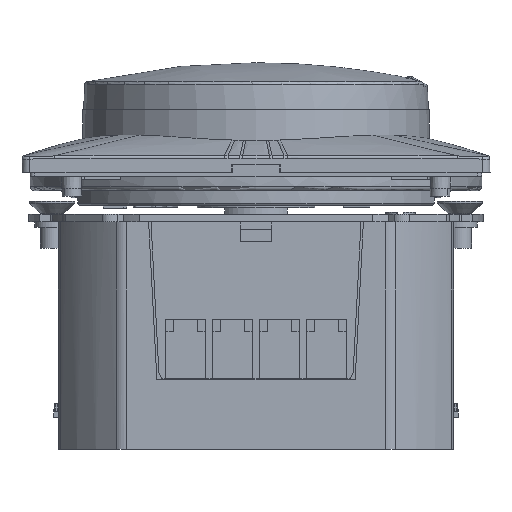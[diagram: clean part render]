
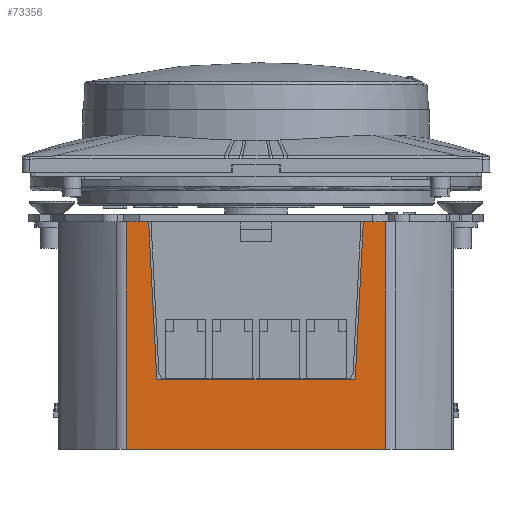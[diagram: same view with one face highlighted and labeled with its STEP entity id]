
A CAD part, front view. The second image highlights one B-rep face of the part: STEP entity #73356.
In plain terms, the highlighted planar face has unit normal (0, -1, 0) as drawn and (0, 0, 1) by its records, which use the part's own axes.
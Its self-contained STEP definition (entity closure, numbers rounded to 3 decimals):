
#54666=DIRECTION('',(0.,-1.,0.));
#54667=VECTOR('',#54666,29.);
#54668=CARTESIAN_POINT('',(-16.565,-2.7,23.7));
#54669=LINE('',#54668,#54667);
#56961=DIRECTION('',(0.052,-0.999,0.));
#56962=VECTOR('',#56961,20.178);
#56963=CARTESIAN_POINT('',(-13.7,-2.7,23.7));
#56964=LINE('',#56963,#56962);
#56965=DIRECTION('',(0.052,0.999,0.));
#56966=VECTOR('',#56965,20.178);
#56967=CARTESIAN_POINT('',(12.644,-22.85,23.7));
#56968=LINE('',#56967,#56966);
#56969=DIRECTION('',(1.,0.,0.));
#56970=VECTOR('',#56969,0.1);
#56971=CARTESIAN_POINT('',(13.7,-2.7,23.7));
#56972=LINE('',#56971,#56970);
#56973=DIRECTION('',(1.,0.,0.));
#56974=VECTOR('',#56973,0.44);
#56975=CARTESIAN_POINT('',(13.8,-2.7,23.7));
#56976=LINE('',#56975,#56974);
#56977=DIRECTION('',(1.,0.,0.));
#56978=VECTOR('',#56977,0.44);
#56979=CARTESIAN_POINT('',(14.96,-2.7,23.7));
#56980=LINE('',#56979,#56978);
#56981=DIRECTION('',(1.,0.,0.));
#56982=VECTOR('',#56981,1.165);
#56983=CARTESIAN_POINT('',(15.4,-2.7,23.7));
#56984=LINE('',#56983,#56982);
#56985=DIRECTION('',(1.,0.,0.));
#56986=VECTOR('',#56985,1.165);
#56987=CARTESIAN_POINT('',(-16.565,-2.7,23.7));
#56988=LINE('',#56987,#56986);
#56989=DIRECTION('',(1.,0.,0.));
#56990=VECTOR('',#56989,0.44);
#56991=CARTESIAN_POINT('',(-15.4,-2.7,23.7));
#56992=LINE('',#56991,#56990);
#56993=DIRECTION('',(1.,0.,0.));
#56994=VECTOR('',#56993,0.44);
#56995=CARTESIAN_POINT('',(-14.24,-2.7,23.7));
#56996=LINE('',#56995,#56994);
#56997=DIRECTION('',(1.,0.,0.));
#56998=VECTOR('',#56997,0.1);
#56999=CARTESIAN_POINT('',(-13.8,-2.7,23.7));
#57000=LINE('',#56999,#56998);
#57052=DIRECTION('',(0.,1.,0.));
#57053=VECTOR('',#57052,1.);
#57054=CARTESIAN_POINT('',(-14.24,-2.7,23.7));
#57055=LINE('',#57054,#57053);
#57060=DIRECTION('',(-1.,0.,0.));
#57061=VECTOR('',#57060,0.721);
#57062=CARTESIAN_POINT('',(-14.24,-1.7,23.7));
#57063=LINE('',#57062,#57061);
#57092=DIRECTION('',(0.,-1.,0.));
#57093=VECTOR('',#57092,1.);
#57094=CARTESIAN_POINT('',(-14.96,-1.7,23.7));
#57095=LINE('',#57094,#57093);
#57100=DIRECTION('',(-1.,0.,0.));
#57101=VECTOR('',#57100,25.288);
#57102=CARTESIAN_POINT('',(12.644,-22.85,23.7));
#57103=LINE('',#57102,#57101);
#57151=DIRECTION('',(0.,1.,0.));
#57152=VECTOR('',#57151,1.);
#57153=CARTESIAN_POINT('',(14.96,-2.7,23.7));
#57154=LINE('',#57153,#57152);
#57169=DIRECTION('',(-1.,0.,0.));
#57170=VECTOR('',#57169,0.721);
#57171=CARTESIAN_POINT('',(14.96,-1.7,23.7));
#57172=LINE('',#57171,#57170);
#57191=DIRECTION('',(0.,-1.,0.));
#57192=VECTOR('',#57191,1.);
#57193=CARTESIAN_POINT('',(14.24,-1.7,23.7));
#57194=LINE('',#57193,#57192);
#57203=DIRECTION('',(0.,1.,0.));
#57204=VECTOR('',#57203,29.);
#57205=CARTESIAN_POINT('',(16.565,-31.7,23.7));
#57206=LINE('',#57205,#57204);
#57230=DIRECTION('',(1.,0.,0.));
#57231=VECTOR('',#57230,33.13);
#57232=CARTESIAN_POINT('',(-16.565,-31.7,23.7));
#57233=LINE('',#57232,#57231);
#61722=CARTESIAN_POINT('',(-13.7,-2.7,23.7));
#61723=VERTEX_POINT('',#61722);
#61724=CARTESIAN_POINT('',(-13.8,-2.7,23.7));
#61725=VERTEX_POINT('',#61724);
#61726=CARTESIAN_POINT('',(-15.4,-2.7,23.7));
#61727=VERTEX_POINT('',#61726);
#61728=CARTESIAN_POINT('',(-16.565,-2.7,23.7));
#61729=VERTEX_POINT('',#61728);
#61734=CARTESIAN_POINT('',(16.565,-2.7,23.7));
#61735=VERTEX_POINT('',#61734);
#61736=CARTESIAN_POINT('',(15.4,-2.7,23.7));
#61737=VERTEX_POINT('',#61736);
#61738=CARTESIAN_POINT('',(13.8,-2.7,23.7));
#61739=VERTEX_POINT('',#61738);
#61740=CARTESIAN_POINT('',(13.7,-2.7,23.7));
#61741=VERTEX_POINT('',#61740);
#61959=CARTESIAN_POINT('',(-14.24,-2.7,23.7));
#61960=VERTEX_POINT('',#61959);
#61969=CARTESIAN_POINT('',(-14.96,-2.7,23.7));
#61970=VERTEX_POINT('',#61969);
#61975=CARTESIAN_POINT('',(14.96,-2.7,23.7));
#61976=VERTEX_POINT('',#61975);
#61985=CARTESIAN_POINT('',(14.24,-2.7,23.7));
#61986=VERTEX_POINT('',#61985);
#62024=CARTESIAN_POINT('',(14.96,-1.7,23.7));
#62026=VERTEX_POINT('',#62024);
#62029=CARTESIAN_POINT('',(14.24,-1.7,23.7));
#62030=VERTEX_POINT('',#62029);
#62035=CARTESIAN_POINT('',(-14.24,-1.7,23.7));
#62036=CARTESIAN_POINT('',(-14.96,-1.7,23.7));
#62037=VERTEX_POINT('',#62035);
#62038=VERTEX_POINT('',#62036);
#62488=CARTESIAN_POINT('',(-16.565,-31.7,23.7));
#62489=VERTEX_POINT('',#62488);
#62490=CARTESIAN_POINT('',(16.565,-31.7,23.7));
#62491=VERTEX_POINT('',#62490);
#63070=CARTESIAN_POINT('',(-12.644,-22.85,23.7));
#63071=VERTEX_POINT('',#63070);
#63072=CARTESIAN_POINT('',(12.644,-22.85,23.7));
#63073=VERTEX_POINT('',#63072);
#73315=CARTESIAN_POINT('',(16.565,-2.7,23.7));
#73316=DIRECTION('',(0.,0.,1.));
#73317=DIRECTION('',(-1.,0.,0.));
#73318=AXIS2_PLACEMENT_3D('',#73315,#73316,#73317);
#73319=PLANE('',#73318);
#73321=ORIENTED_EDGE('',*,*,#73320,.T.);
#73323=ORIENTED_EDGE('',*,*,#73322,.F.);
#73324=ORIENTED_EDGE('',*,*,#73303,.T.);
#73325=ORIENTED_EDGE('',*,*,#70265,.T.);
#73327=ORIENTED_EDGE('',*,*,#73326,.T.);
#73329=ORIENTED_EDGE('',*,*,#73328,.F.);
#73331=ORIENTED_EDGE('',*,*,#73330,.F.);
#73333=ORIENTED_EDGE('',*,*,#73332,.F.);
#73335=ORIENTED_EDGE('',*,*,#73334,.T.);
#73336=ORIENTED_EDGE('',*,*,#70261,.T.);
#73338=ORIENTED_EDGE('',*,*,#73337,.F.);
#73340=ORIENTED_EDGE('',*,*,#73339,.F.);
#73341=ORIENTED_EDGE('',*,*,#70214,.F.);
#73342=ORIENTED_EDGE('',*,*,#70253,.T.);
#73344=ORIENTED_EDGE('',*,*,#73343,.T.);
#73346=ORIENTED_EDGE('',*,*,#73345,.F.);
#73348=ORIENTED_EDGE('',*,*,#73347,.F.);
#73350=ORIENTED_EDGE('',*,*,#73349,.F.);
#73352=ORIENTED_EDGE('',*,*,#73351,.T.);
#73353=ORIENTED_EDGE('',*,*,#70249,.T.);
#73354=EDGE_LOOP('',(#73321,#73323,#73324,#73325,#73327,#73329,#73331,#73333,
#73335,#73336,#73338,#73340,#73341,#73342,#73344,#73346,#73348,#73350,#73352,
#73353));
#73355=FACE_OUTER_BOUND('',#73354,.F.);
#70214=EDGE_CURVE('',#61729,#62489,#54669,.T.);
#70249=EDGE_CURVE('',#61725,#61723,#57000,.T.);
#70253=EDGE_CURVE('',#61729,#61727,#56988,.T.);
#70261=EDGE_CURVE('',#61737,#61735,#56984,.T.);
#70265=EDGE_CURVE('',#61741,#61739,#56972,.T.);
#73303=EDGE_CURVE('',#63073,#61741,#56968,.T.);
#73320=EDGE_CURVE('',#61723,#63071,#56964,.T.);
#73322=EDGE_CURVE('',#63073,#63071,#57103,.T.);
#73326=EDGE_CURVE('',#61739,#61986,#56976,.T.);
#73328=EDGE_CURVE('',#62030,#61986,#57194,.T.);
#73330=EDGE_CURVE('',#62026,#62030,#57172,.T.);
#73332=EDGE_CURVE('',#61976,#62026,#57154,.T.);
#73334=EDGE_CURVE('',#61976,#61737,#56980,.T.);
#73337=EDGE_CURVE('',#62491,#61735,#57206,.T.);
#73339=EDGE_CURVE('',#62489,#62491,#57233,.T.);
#73343=EDGE_CURVE('',#61727,#61970,#56992,.T.);
#73345=EDGE_CURVE('',#62038,#61970,#57095,.T.);
#73347=EDGE_CURVE('',#62037,#62038,#57063,.T.);
#73349=EDGE_CURVE('',#61960,#62037,#57055,.T.);
#73351=EDGE_CURVE('',#61960,#61725,#56996,.T.);
#73356=ADVANCED_FACE('',(#73355),#73319,.T.);
